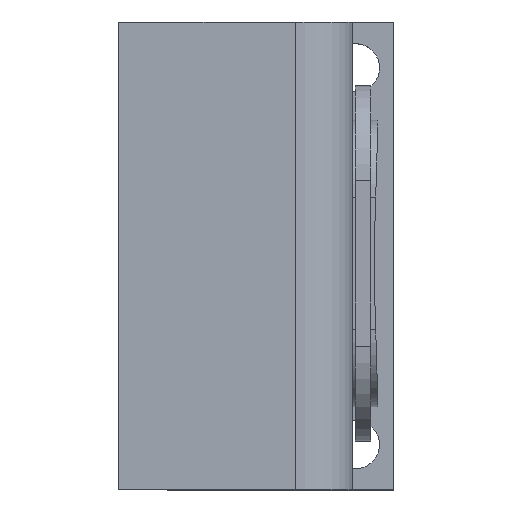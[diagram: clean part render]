
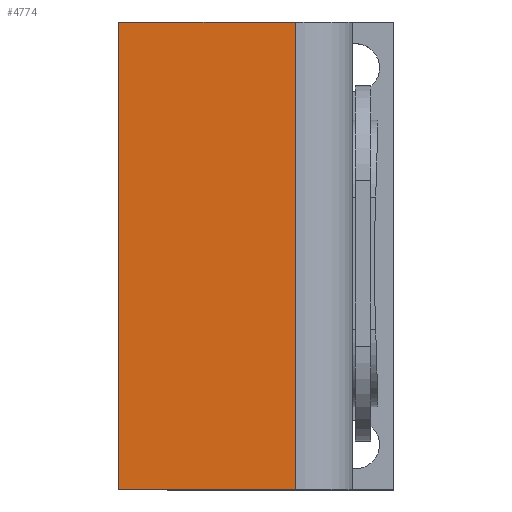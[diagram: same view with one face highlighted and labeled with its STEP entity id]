
A CAD part, top view. The second image highlights one B-rep face of the part: STEP entity #4774.
In plain terms, the highlighted planar face has unit normal (0, 0, 1).
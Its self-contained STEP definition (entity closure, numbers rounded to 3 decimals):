
#151 = PLANE('',#152);
#152 = AXIS2_PLACEMENT_3D('',#153,#154,#155);
#153 = CARTESIAN_POINT('',(25.,40.,-12.));
#154 = DIRECTION('',(0.,1.,0.));
#155 = DIRECTION('',(0.,0.,1.));
#237 = CYLINDRICAL_SURFACE('',#238,3.8);
#238 = AXIS2_PLACEMENT_3D('',#239,#240,#241);
#239 = CARTESIAN_POINT('',(39.,49.,9.));
#240 = DIRECTION('',(-0.,-1.,-0.));
#241 = DIRECTION('',(1.,0.,-0.));
#264 = PLANE('',#265);
#265 = AXIS2_PLACEMENT_3D('',#266,#267,#268);
#266 = CARTESIAN_POINT('',(25.,9.,-12.));
#267 = DIRECTION('',(0.,1.,0.));
#268 = DIRECTION('',(0.,0.,1.));
#1220 = VERTEX_POINT('',#1221);
#1221 = CARTESIAN_POINT('',(27.3,40.,12.8));
#1235 = PLANE('',#1236);
#1236 = AXIS2_PLACEMENT_3D('',#1237,#1238,#1239);
#1237 = CARTESIAN_POINT('',(27.3,-10.3,7.));
#1238 = DIRECTION('',(1.,0.,0.));
#1239 = DIRECTION('',(0.,0.,1.));
#1246 = EDGE_CURVE('',#1220,#1247,#1249,.T.);
#1247 = VERTEX_POINT('',#1248);
#1248 = CARTESIAN_POINT('',(39.,40.,12.8));
#1249 = SURFACE_CURVE('',#1250,(#1254,#1261),.PCURVE_S1.);
#1250 = LINE('',#1251,#1252);
#1251 = CARTESIAN_POINT('',(25.,40.,12.8));
#1252 = VECTOR('',#1253,1.);
#1253 = DIRECTION('',(1.,0.,0.));
#1254 = PCURVE('',#151,#1255);
#1255 = DEFINITIONAL_REPRESENTATION('',(#1256),#1260);
#1256 = LINE('',#1257,#1258);
#1257 = CARTESIAN_POINT('',(24.8,0.));
#1258 = VECTOR('',#1259,1.);
#1259 = DIRECTION('',(0.,1.));
#1260 = ( GEOMETRIC_REPRESENTATION_CONTEXT(2) 
PARAMETRIC_REPRESENTATION_CONTEXT() REPRESENTATION_CONTEXT('2D SPACE',''
  ) );
#1261 = PCURVE('',#1262,#1267);
#1262 = PLANE('',#1263);
#1263 = AXIS2_PLACEMENT_3D('',#1264,#1265,#1266);
#1264 = CARTESIAN_POINT('',(-42.8,-66.8,12.8));
#1265 = DIRECTION('',(0.,0.,1.));
#1266 = DIRECTION('',(1.,0.,-0.));
#1267 = DEFINITIONAL_REPRESENTATION('',(#1268),#1272);
#1268 = LINE('',#1269,#1270);
#1269 = CARTESIAN_POINT('',(67.8,106.8));
#1270 = VECTOR('',#1271,1.);
#1271 = DIRECTION('',(1.,0.));
#1272 = ( GEOMETRIC_REPRESENTATION_CONTEXT(2) 
PARAMETRIC_REPRESENTATION_CONTEXT() REPRESENTATION_CONTEXT('2D SPACE',''
  ) );
#1655 = EDGE_CURVE('',#1247,#1656,#1658,.T.);
#1656 = VERTEX_POINT('',#1657);
#1657 = CARTESIAN_POINT('',(39.,9.,12.8));
#1658 = SURFACE_CURVE('',#1659,(#1663,#1670),.PCURVE_S1.);
#1659 = LINE('',#1660,#1661);
#1660 = CARTESIAN_POINT('',(39.,49.,12.8));
#1661 = VECTOR('',#1662,1.);
#1662 = DIRECTION('',(-0.,-1.,-0.));
#1663 = PCURVE('',#237,#1664);
#1664 = DEFINITIONAL_REPRESENTATION('',(#1665),#1669);
#1665 = LINE('',#1666,#1667);
#1666 = CARTESIAN_POINT('',(1.571,0.));
#1667 = VECTOR('',#1668,1.);
#1668 = DIRECTION('',(0.,1.));
#1669 = ( GEOMETRIC_REPRESENTATION_CONTEXT(2) 
PARAMETRIC_REPRESENTATION_CONTEXT() REPRESENTATION_CONTEXT('2D SPACE',''
  ) );
#1670 = PCURVE('',#1262,#1671);
#1671 = DEFINITIONAL_REPRESENTATION('',(#1672),#1676);
#1672 = LINE('',#1673,#1674);
#1673 = CARTESIAN_POINT('',(81.8,115.8));
#1674 = VECTOR('',#1675,1.);
#1675 = DIRECTION('',(0.,-1.));
#1676 = ( GEOMETRIC_REPRESENTATION_CONTEXT(2) 
PARAMETRIC_REPRESENTATION_CONTEXT() REPRESENTATION_CONTEXT('2D SPACE',''
  ) );
#1854 = EDGE_CURVE('',#1855,#1656,#1857,.T.);
#1855 = VERTEX_POINT('',#1856);
#1856 = CARTESIAN_POINT('',(27.3,9.,12.8));
#1857 = SURFACE_CURVE('',#1858,(#1862,#1869),.PCURVE_S1.);
#1858 = LINE('',#1859,#1860);
#1859 = CARTESIAN_POINT('',(25.,9.,12.8));
#1860 = VECTOR('',#1861,1.);
#1861 = DIRECTION('',(1.,0.,0.));
#1862 = PCURVE('',#264,#1863);
#1863 = DEFINITIONAL_REPRESENTATION('',(#1864),#1868);
#1864 = LINE('',#1865,#1866);
#1865 = CARTESIAN_POINT('',(24.8,0.));
#1866 = VECTOR('',#1867,1.);
#1867 = DIRECTION('',(0.,1.));
#1868 = ( GEOMETRIC_REPRESENTATION_CONTEXT(2) 
PARAMETRIC_REPRESENTATION_CONTEXT() REPRESENTATION_CONTEXT('2D SPACE',''
  ) );
#1869 = PCURVE('',#1262,#1870);
#1870 = DEFINITIONAL_REPRESENTATION('',(#1871),#1875);
#1871 = LINE('',#1872,#1873);
#1872 = CARTESIAN_POINT('',(67.8,75.8));
#1873 = VECTOR('',#1874,1.);
#1874 = DIRECTION('',(1.,0.));
#1875 = ( GEOMETRIC_REPRESENTATION_CONTEXT(2) 
PARAMETRIC_REPRESENTATION_CONTEXT() REPRESENTATION_CONTEXT('2D SPACE',''
  ) );
#3337 = EDGE_CURVE('',#1855,#1220,#3338,.T.);
#3338 = SURFACE_CURVE('',#3339,(#3343,#3350),.PCURVE_S1.);
#3339 = LINE('',#3340,#3341);
#3340 = CARTESIAN_POINT('',(27.3,-38.55,12.8));
#3341 = VECTOR('',#3342,1.);
#3342 = DIRECTION('',(0.,1.,0.));
#3343 = PCURVE('',#1235,#3344);
#3344 = DEFINITIONAL_REPRESENTATION('',(#3345),#3349);
#3345 = LINE('',#3346,#3347);
#3346 = CARTESIAN_POINT('',(5.8,28.25));
#3347 = VECTOR('',#3348,1.);
#3348 = DIRECTION('',(0.,-1.));
#3349 = ( GEOMETRIC_REPRESENTATION_CONTEXT(2) 
PARAMETRIC_REPRESENTATION_CONTEXT() REPRESENTATION_CONTEXT('2D SPACE',''
  ) );
#3350 = PCURVE('',#1262,#3351);
#3351 = DEFINITIONAL_REPRESENTATION('',(#3352),#3356);
#3352 = LINE('',#3353,#3354);
#3353 = CARTESIAN_POINT('',(70.1,28.25));
#3354 = VECTOR('',#3355,1.);
#3355 = DIRECTION('',(0.,1.));
#3356 = ( GEOMETRIC_REPRESENTATION_CONTEXT(2) 
PARAMETRIC_REPRESENTATION_CONTEXT() REPRESENTATION_CONTEXT('2D SPACE',''
  ) );
#4774 = ADVANCED_FACE('',(#4775),#1262,.T.);
#4775 = FACE_BOUND('',#4776,.T.);
#4776 = EDGE_LOOP('',(#4777,#4778,#4779,#4780));
#4777 = ORIENTED_EDGE('',*,*,#1854,.T.);
#4778 = ORIENTED_EDGE('',*,*,#1655,.F.);
#4779 = ORIENTED_EDGE('',*,*,#1246,.F.);
#4780 = ORIENTED_EDGE('',*,*,#3337,.F.);
